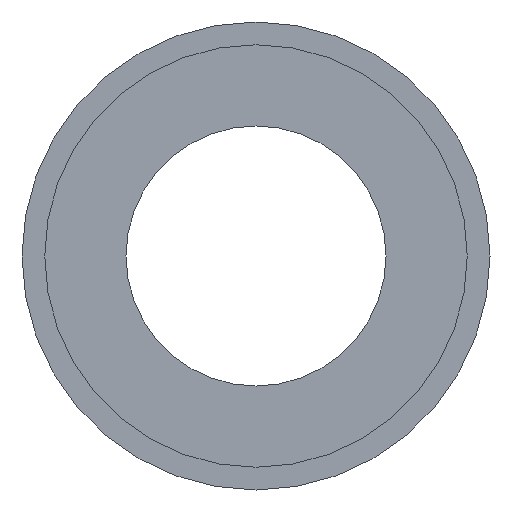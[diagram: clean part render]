
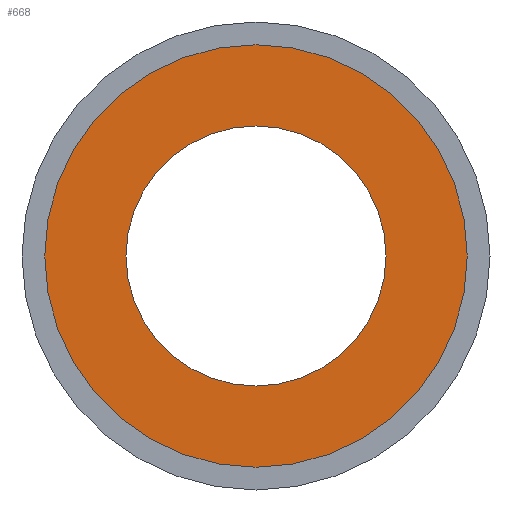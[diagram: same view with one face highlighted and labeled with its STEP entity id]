
A CAD part, front view. The second image highlights one B-rep face of the part: STEP entity #668.
In plain terms, the highlighted planar face has unit normal (0, -1, 0).
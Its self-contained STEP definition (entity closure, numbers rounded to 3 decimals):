
#8 = ORIENTED_EDGE ( 'NONE', *, *, #1155, .F. ) ;
#43 = CARTESIAN_POINT ( 'NONE',  ( 0., -15., 32.5 ) ) ;
#104 = CARTESIAN_POINT ( 'NONE',  ( 0., -15., 0. ) ) ;
#134 = AXIS2_PLACEMENT_3D ( 'NONE', #1126, #1868, #1110 ) ;
#344 = DIRECTION ( 'NONE',  ( 0., 1., 0. ) ) ;
#404 = VERTEX_POINT ( 'NONE', #2002 ) ;
#480 = DIRECTION ( 'NONE',  ( 0., 0., -1. ) ) ;
#493 = AXIS2_PLACEMENT_3D ( 'NONE', #2147, #1954, #2350 ) ;
#634 = CARTESIAN_POINT ( 'NONE',  ( 0., -15., -20. ) ) ;
#667 = CARTESIAN_POINT ( 'NONE',  ( 0., -15., 0. ) ) ;
#668 = ADVANCED_FACE ( 'NONE', ( #1479, #2159 ), #1314, .F. ) ;
#675 = EDGE_CURVE ( 'NONE', #1188, #1996, #2348, .T. ) ;
#697 = AXIS2_PLACEMENT_3D ( 'NONE', #2446, #344, #746 ) ;
#731 = EDGE_LOOP ( 'NONE', ( #1244, #1856 ) ) ;
#746 = DIRECTION ( 'NONE',  ( 0., 0., 1. ) ) ;
#871 = DIRECTION ( 'NONE',  ( 0., 0., -1. ) ) ;
#1058 = VERTEX_POINT ( 'NONE', #43 ) ;
#1098 = CIRCLE ( 'NONE', #2399, 20. ) ;
#1110 = DIRECTION ( 'NONE',  ( 0., 0., -1. ) ) ;
#1112 = ORIENTED_EDGE ( 'NONE', *, *, #675, .F. ) ;
#1126 = CARTESIAN_POINT ( 'NONE',  ( 0., -15., 0. ) ) ;
#1155 = EDGE_CURVE ( 'NONE', #1996, #1188, #1098, .T. ) ;
#1188 = VERTEX_POINT ( 'NONE', #1841 ) ;
#1244 = ORIENTED_EDGE ( 'NONE', *, *, #1865, .T. ) ;
#1314 = PLANE ( 'NONE',  #697 ) ;
#1393 = AXIS2_PLACEMENT_3D ( 'NONE', #667, #1847, #871 ) ;
#1424 = DIRECTION ( 'NONE',  ( 0., -1., 0. ) ) ;
#1479 = FACE_BOUND ( 'NONE', #1838, .T. ) ;
#1634 = CIRCLE ( 'NONE', #1393, 32.5 ) ;
#1838 = EDGE_LOOP ( 'NONE', ( #8, #1112 ) ) ;
#1841 = CARTESIAN_POINT ( 'NONE',  ( 0., -15., 20. ) ) ;
#1847 = DIRECTION ( 'NONE',  ( 0., -1., 0. ) ) ;
#1856 = ORIENTED_EDGE ( 'NONE', *, *, #2252, .T. ) ;
#1865 = EDGE_CURVE ( 'NONE', #404, #1058, #2124, .T. ) ;
#1868 = DIRECTION ( 'NONE',  ( 0., -1., 0. ) ) ;
#1954 = DIRECTION ( 'NONE',  ( 0., -1., 0. ) ) ;
#1996 = VERTEX_POINT ( 'NONE', #634 ) ;
#2002 = CARTESIAN_POINT ( 'NONE',  ( 0., -15., -32.5 ) ) ;
#2124 = CIRCLE ( 'NONE', #493, 32.5 ) ;
#2147 = CARTESIAN_POINT ( 'NONE',  ( 0., -15., 0. ) ) ;
#2159 = FACE_OUTER_BOUND ( 'NONE', #731, .T. ) ;
#2252 = EDGE_CURVE ( 'NONE', #1058, #404, #1634, .T. ) ;
#2348 = CIRCLE ( 'NONE', #134, 20. ) ;
#2350 = DIRECTION ( 'NONE',  ( 0., 0., -1. ) ) ;
#2399 = AXIS2_PLACEMENT_3D ( 'NONE', #104, #1424, #480 ) ;
#2446 = CARTESIAN_POINT ( 'NONE',  ( 0., -15., 20. ) ) ;
